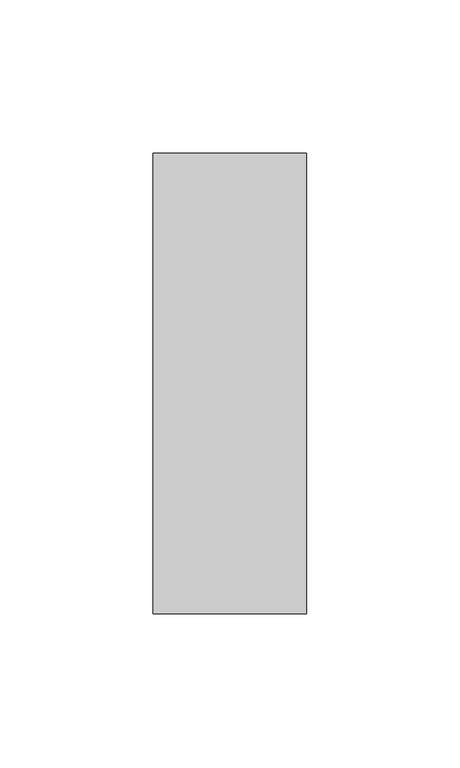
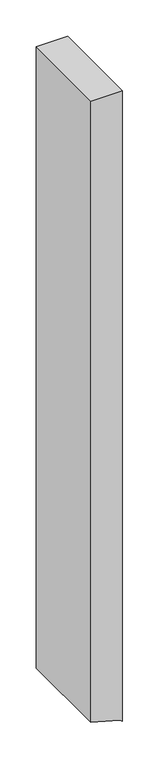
"""IFC4 building model written with IfcOpenShell, lengths in millimetres: member geometry, Прямоугольный импост : 50 x 150 мм."""

from ifc_helpers import new_model, si_unit, frame, origin, place, context, project, spatial, polyline, outline, extrude, source, transform, mapped, element, save


def member_87bbabc3(model_context):
    return source(origin(), model_context, "Body", "SweptSolid", [
        extrude(outline(polyline([(0.0, 25.0), (0.0, -25.0), (-1042.4303054, -25.0), (-1055.3791963, 20.656794), (-1058.1382936, 25.0), (0.0, 25.0)])), frame((0.0, -75.0, 0.0), z_axis=(0.0, 1.0, 0.0), x_axis=(0.0, 0.0, 1.0)), (0.0, 0.0, 1.0), 150.0),
    ])


if __name__ == "__main__":
    model = new_model("IFC4")
    model_context = context("Model", 3, world=origin())
    ifc_project = project(units=[si_unit("LENGTHUNIT", "METRE", prefix="MILLI")], contexts=[model_context])
    site = spatial("IfcSite", under=ifc_project)
    building = spatial("IfcBuilding", under=site)
    placement = place(None, origin())
    member_shape = member_87bbabc3(model_context)
    element("IfcMember", 1, ObjectType="Прямоугольный импост : 50 x 150 мм", at=placement, inside=building, context=model_context, shape_type="MappedRepresentation", body=[
        mapped(member_shape, transform((0.0, 0.0, 0.0), x_axis=(1.0, 0.0, 0.0), y_axis=(0.0, 1.0, 0.0), z_axis=(0.0, 0.0, 1.0))),
    ])
    save(model, "model.ifc")
